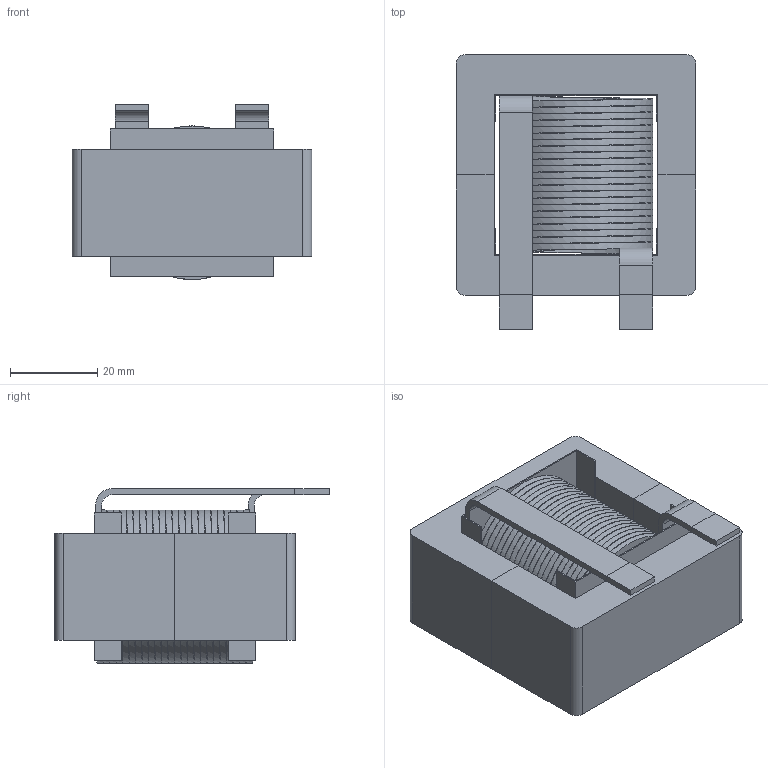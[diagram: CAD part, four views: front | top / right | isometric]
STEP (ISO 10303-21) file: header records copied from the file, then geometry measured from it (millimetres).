
FILE_DESCRIPTION (( 'STEP AP214' ), '1' );
FILE_NAME ('ES55246-111M-60AV.STEP', '2020-07-08T00:00:34', ( '' ), ( '' ), 'SwSTEP 2.0', 'SolidWorks 2015', '' );
FILE_SCHEMA (( 'AUTOMOTIVE_DESIGN' ));
Length unit declared in the file: inch
Products named in the file (1): ES55246-111M-60AV
Bounding box: 54.86 x 62.96 x 40.08 mm (x, y, z)
Surface area: 52753.3 mm2 (no closed solid volume)
Topology: 0 solids, 5 shells, 113 faces, 334 edges, 220 vertices
Faces by surface type: plane 56, cylinder 55, bspline 2
Entity records: 7904 total; most frequent: CARTESIAN_POINT 3716, ORIENTED_EDGE 632, DIRECTION 472, EDGE_CURVE 334, VERTEX_POINT 220, VECTOR 196, LINE 196, AXIS2_PLACEMENT_3D 138
